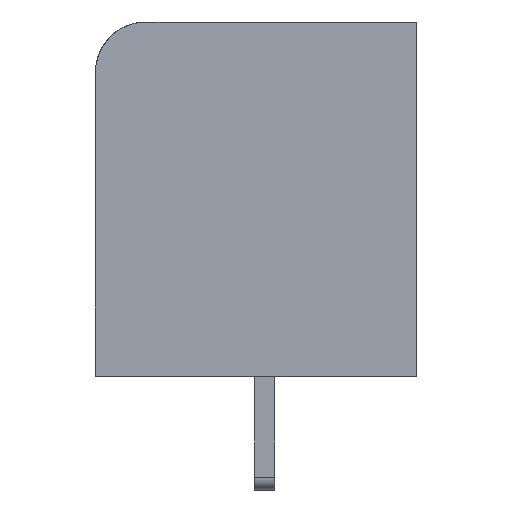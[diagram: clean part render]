
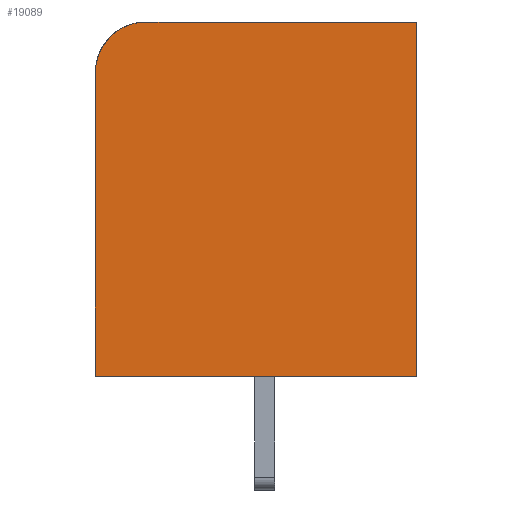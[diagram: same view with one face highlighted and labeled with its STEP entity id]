
A CAD part, left-side view. The second image highlights one B-rep face of the part: STEP entity #19089.
In plain terms, the highlighted planar face has unit normal (-1, 0, 0).
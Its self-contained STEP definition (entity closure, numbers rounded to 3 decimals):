
#69=DIRECTION('',(0.,0.,1.));
#70=VECTOR('',#69,12.);
#71=CARTESIAN_POINT('',(0.,12.7,-14.));
#72=LINE('',#71,#70);
#85=DIRECTION('',(0.,1.,0.));
#86=VECTOR('',#85,12.7);
#87=CARTESIAN_POINT('',(0.,0.,-14.));
#88=LINE('',#87,#86);
#4410=CARTESIAN_POINT('',(0.,10.7,-2.));
#4411=DIRECTION('',(-1.,0.,0.));
#4412=DIRECTION('',(0.,0.,1.));
#4413=AXIS2_PLACEMENT_3D('',#4410,#4411,#4412);
#4415=DIRECTION('',(0.,1.,0.));
#4416=VECTOR('',#4415,10.7);
#4417=CARTESIAN_POINT('',(0.,0.,0.));
#4418=LINE('',#4417,#4416);
#4419=DIRECTION('',(0.,0.,1.));
#4420=VECTOR('',#4419,14.);
#4421=CARTESIAN_POINT('',(0.,0.,-14.));
#4422=LINE('',#4421,#4420);
#11839=CARTESIAN_POINT('',(0.,0.,-14.));
#11840=VERTEX_POINT('',#11839);
#11841=CARTESIAN_POINT('',(0.,0.,0.));
#11842=VERTEX_POINT('',#11841);
#11861=CARTESIAN_POINT('',(0.,10.7,0.));
#11862=VERTEX_POINT('',#11861);
#11871=CARTESIAN_POINT('',(0.,12.7,-2.));
#11872=VERTEX_POINT('',#11871);
#11873=CARTESIAN_POINT('',(0.,12.7,-14.));
#11874=VERTEX_POINT('',#11873);
#19077=CARTESIAN_POINT('',(0.,0.,-14.));
#19078=DIRECTION('',(-1.,0.,0.));
#19079=DIRECTION('',(0.,0.,1.));
#19080=AXIS2_PLACEMENT_3D('',#19077,#19078,#19079);
#19081=PLANE('',#19080);
#19082=ORIENTED_EDGE('',*,*,#13928,.T.);
#19083=ORIENTED_EDGE('',*,*,#19072,.F.);
#19084=ORIENTED_EDGE('',*,*,#13858,.F.);
#19085=ORIENTED_EDGE('',*,*,#13811,.F.);
#19086=ORIENTED_EDGE('',*,*,#13951,.T.);
#19087=EDGE_LOOP('',(#19082,#19083,#19084,#19085,#19086));
#19088=FACE_OUTER_BOUND('',#19087,.F.);
#19089=ADVANCED_FACE('',(#19088),#19081,.T.);
#4414=CIRCLE('',#4413,2.);
#13811=EDGE_CURVE('',#11840,#11842,#4422,.T.);
#13858=EDGE_CURVE('',#11842,#11862,#4418,.T.);
#13928=EDGE_CURVE('',#11874,#11872,#72,.T.);
#13951=EDGE_CURVE('',#11840,#11874,#88,.T.);
#19072=EDGE_CURVE('',#11862,#11872,#4414,.T.);
